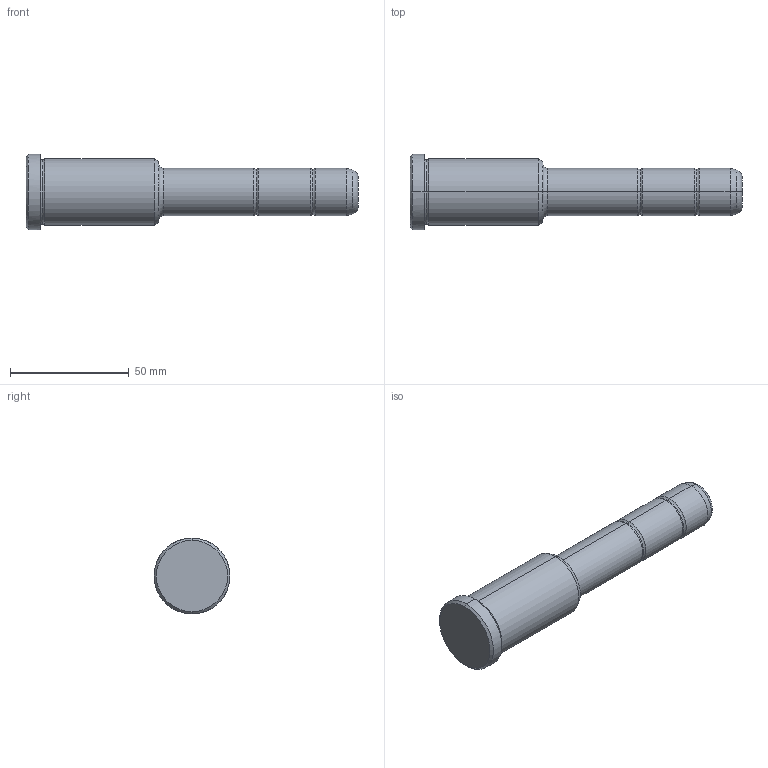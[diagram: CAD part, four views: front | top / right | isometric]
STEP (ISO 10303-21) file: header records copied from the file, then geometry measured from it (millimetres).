
FILE_DESCRIPTION(('CATIA V5 STEP Exchange'),'2;1');
FILE_NAME('C:\Users\Utente\Desktop\IO LAVORO\3D X SITO CF\X SITO\PLASTICA\351\351-20X56X140.stp','2021-08-27T12:48:13+00:00',('none'),('none'),'CATIA Version 5 Release 20 GA (IN-10)','CATIA V5 STEP AP203','none');
FILE_SCHEMA(('CONFIG_CONTROL_DESIGN'));
Length unit declared in the file: millimetre
Products named in the file (1): 351-20X56X140
Bounding box: 140 x 32 x 32 mm (x, y, z)
Volume: 61510.3 mm3; surface area: 11621.9 mm2
Topology: 1 solids, 1 shells, 36 faces, 102 edges, 70 vertices
Faces by surface type: torus 16, cylinder 10, cone 6, plane 4
Entity records: 1292 total; most frequent: CARTESIAN_POINT 321, ORIENTED_EDGE 204, DIRECTION 166, AXIS2_PLACEMENT_3D 115, EDGE_CURVE 102, CIRCLE 78, VERTEX_POINT 70, EDGE_LOOP 38
